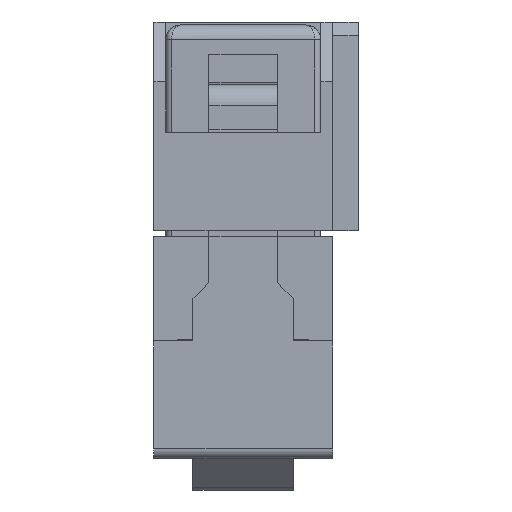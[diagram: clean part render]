
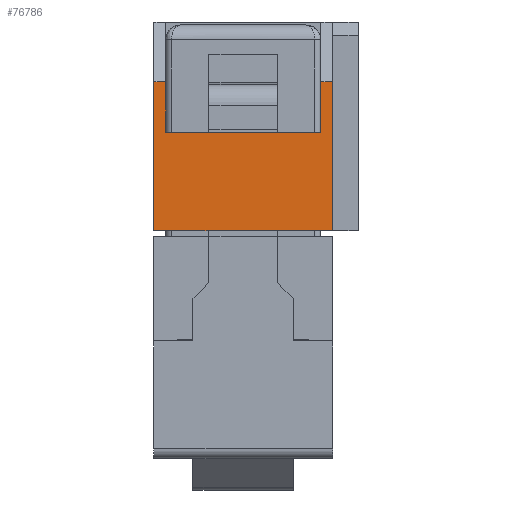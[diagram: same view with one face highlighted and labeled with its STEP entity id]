
A CAD part, left-side view. The second image highlights one B-rep face of the part: STEP entity #76786.
In plain terms, the highlighted planar face has unit normal (-1, 0, 0).
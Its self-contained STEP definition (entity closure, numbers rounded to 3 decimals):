
#71978 = PLANE('',#71979);
#71979 = AXIS2_PLACEMENT_3D('',#71980,#71981,#71982);
#71980 = CARTESIAN_POINT('',(-15.04,-3.,0.));
#71981 = DIRECTION('',(0.,0.,1.));
#71982 = DIRECTION('',(1.,0.,0.));
#73907 = PLANE('',#73908);
#73908 = AXIS2_PLACEMENT_3D('',#73909,#73910,#73911);
#73909 = CARTESIAN_POINT('',(-14.64,-2.6,31.637));
#73910 = DIRECTION('',(0.,1.,0.));
#73911 = DIRECTION('',(0.,0.,1.));
#73980 = PLANE('',#73981);
#73981 = AXIS2_PLACEMENT_3D('',#73982,#73983,#73984);
#73982 = CARTESIAN_POINT('',(-13.24,2.6,31.637));
#73983 = DIRECTION('',(0.,-1.,0.));
#73984 = DIRECTION('',(0.,0.,-1.));
#74463 = VERTEX_POINT('',#74464);
#74464 = CARTESIAN_POINT('',(-15.04,-3.,0.));
#74478 = PLANE('',#74479);
#74479 = AXIS2_PLACEMENT_3D('',#74480,#74481,#74482);
#74480 = CARTESIAN_POINT('',(-15.04,-3.,7.));
#74481 = DIRECTION('',(0.,1.,0.));
#74482 = DIRECTION('',(-1.,0.,0.));
#74490 = EDGE_CURVE('',#74491,#74463,#74493,.T.);
#74491 = VERTEX_POINT('',#74492);
#74492 = CARTESIAN_POINT('',(-15.04,3.,0.));
#74493 = SURFACE_CURVE('',#74494,(#74498,#74505),.PCURVE_S1.);
#74494 = LINE('',#74495,#74496);
#74495 = CARTESIAN_POINT('',(-15.04,3.,0.));
#74496 = VECTOR('',#74497,1.);
#74497 = DIRECTION('',(0.,-1.,0.));
#74498 = PCURVE('',#71978,#74499);
#74499 = DEFINITIONAL_REPRESENTATION('',(#74500),#74504);
#74500 = LINE('',#74501,#74502);
#74501 = CARTESIAN_POINT('',(0.,6.));
#74502 = VECTOR('',#74503,1.);
#74503 = DIRECTION('',(0.,-1.));
#74504 = ( GEOMETRIC_REPRESENTATION_CONTEXT(2) 
PARAMETRIC_REPRESENTATION_CONTEXT() REPRESENTATION_CONTEXT('2D SPACE',''
  ) );
#74505 = PCURVE('',#74506,#74511);
#74506 = PLANE('',#74507);
#74507 = AXIS2_PLACEMENT_3D('',#74508,#74509,#74510);
#74508 = CARTESIAN_POINT('',(-15.04,3.,7.));
#74509 = DIRECTION('',(1.,0.,0.));
#74510 = DIRECTION('',(0.,0.,-1.));
#74511 = DEFINITIONAL_REPRESENTATION('',(#74512),#74516);
#74512 = LINE('',#74513,#74514);
#74513 = CARTESIAN_POINT('',(7.,0.));
#74514 = VECTOR('',#74515,1.);
#74515 = DIRECTION('',(0.,-1.));
#74516 = ( GEOMETRIC_REPRESENTATION_CONTEXT(2) 
PARAMETRIC_REPRESENTATION_CONTEXT() REPRESENTATION_CONTEXT('2D SPACE',''
  ) );
#74534 = PLANE('',#74535);
#74535 = AXIS2_PLACEMENT_3D('',#74536,#74537,#74538);
#74536 = CARTESIAN_POINT('',(15.04,3.,7.));
#74537 = DIRECTION('',(0.,-1.,0.));
#74538 = DIRECTION('',(1.,0.,0.));
#76786 = ADVANCED_FACE('',(#76787),#74506,.F.);
#76787 = FACE_BOUND('',#76788,.T.);
#76788 = EDGE_LOOP('',(#76789,#76819,#76842,#76870,#76893,#76921,#76942,
    #76943));
#76789 = ORIENTED_EDGE('',*,*,#76790,.F.);
#76790 = EDGE_CURVE('',#76791,#76793,#76795,.T.);
#76791 = VERTEX_POINT('',#76792);
#76792 = CARTESIAN_POINT('',(-15.04,-2.6,5.));
#76793 = VERTEX_POINT('',#76794);
#76794 = CARTESIAN_POINT('',(-15.04,-3.,5.));
#76795 = SURFACE_CURVE('',#76796,(#76800,#76807),.PCURVE_S1.);
#76796 = LINE('',#76797,#76798);
#76797 = CARTESIAN_POINT('',(-15.04,3.,5.));
#76798 = VECTOR('',#76799,1.);
#76799 = DIRECTION('',(0.,-1.,0.));
#76800 = PCURVE('',#74506,#76801);
#76801 = DEFINITIONAL_REPRESENTATION('',(#76802),#76806);
#76802 = LINE('',#76803,#76804);
#76803 = CARTESIAN_POINT('',(2.,0.));
#76804 = VECTOR('',#76805,1.);
#76805 = DIRECTION('',(0.,-1.));
#76806 = ( GEOMETRIC_REPRESENTATION_CONTEXT(2) 
PARAMETRIC_REPRESENTATION_CONTEXT() REPRESENTATION_CONTEXT('2D SPACE',''
  ) );
#76807 = PCURVE('',#76808,#76813);
#76808 = PLANE('',#76809);
#76809 = AXIS2_PLACEMENT_3D('',#76810,#76811,#76812);
#76810 = CARTESIAN_POINT('',(-15.04,-31.637,5.));
#76811 = DIRECTION('',(-0.894,0.,0.447));
#76812 = DIRECTION('',(0.447,0.,0.894));
#76813 = DEFINITIONAL_REPRESENTATION('',(#76814),#76818);
#76814 = LINE('',#76815,#76816);
#76815 = CARTESIAN_POINT('',(0.,34.637));
#76816 = VECTOR('',#76817,1.);
#76817 = DIRECTION('',(0.,-1.));
#76818 = ( GEOMETRIC_REPRESENTATION_CONTEXT(2) 
PARAMETRIC_REPRESENTATION_CONTEXT() REPRESENTATION_CONTEXT('2D SPACE',''
  ) );
#76819 = ORIENTED_EDGE('',*,*,#76820,.F.);
#76820 = EDGE_CURVE('',#76821,#76791,#76823,.T.);
#76821 = VERTEX_POINT('',#76822);
#76822 = CARTESIAN_POINT('',(-15.04,-2.6,3.3));
#76823 = SURFACE_CURVE('',#76824,(#76828,#76835),.PCURVE_S1.);
#76824 = LINE('',#76825,#76826);
#76825 = CARTESIAN_POINT('',(-15.04,-2.6,3.3));
#76826 = VECTOR('',#76827,1.);
#76827 = DIRECTION('',(0.,0.,1.));
#76828 = PCURVE('',#74506,#76829);
#76829 = DEFINITIONAL_REPRESENTATION('',(#76830),#76834);
#76830 = LINE('',#76831,#76832);
#76831 = CARTESIAN_POINT('',(3.7,-5.6));
#76832 = VECTOR('',#76833,1.);
#76833 = DIRECTION('',(-1.,0.));
#76834 = ( GEOMETRIC_REPRESENTATION_CONTEXT(2) 
PARAMETRIC_REPRESENTATION_CONTEXT() REPRESENTATION_CONTEXT('2D SPACE',''
  ) );
#76835 = PCURVE('',#73907,#76836);
#76836 = DEFINITIONAL_REPRESENTATION('',(#76837),#76841);
#76837 = LINE('',#76838,#76839);
#76838 = CARTESIAN_POINT('',(-28.337,-0.4));
#76839 = VECTOR('',#76840,1.);
#76840 = DIRECTION('',(1.,0.));
#76841 = ( GEOMETRIC_REPRESENTATION_CONTEXT(2) 
PARAMETRIC_REPRESENTATION_CONTEXT() REPRESENTATION_CONTEXT('2D SPACE',''
  ) );
#76842 = ORIENTED_EDGE('',*,*,#76843,.F.);
#76843 = EDGE_CURVE('',#76844,#76821,#76846,.T.);
#76844 = VERTEX_POINT('',#76845);
#76845 = CARTESIAN_POINT('',(-15.04,2.6,3.3));
#76846 = SURFACE_CURVE('',#76847,(#76851,#76858),.PCURVE_S1.);
#76847 = LINE('',#76848,#76849);
#76848 = CARTESIAN_POINT('',(-15.04,2.6,3.3));
#76849 = VECTOR('',#76850,1.);
#76850 = DIRECTION('',(0.,-1.,0.));
#76851 = PCURVE('',#74506,#76852);
#76852 = DEFINITIONAL_REPRESENTATION('',(#76853),#76857);
#76853 = LINE('',#76854,#76855);
#76854 = CARTESIAN_POINT('',(3.7,-0.4));
#76855 = VECTOR('',#76856,1.);
#76856 = DIRECTION('',(0.,-1.));
#76857 = ( GEOMETRIC_REPRESENTATION_CONTEXT(2) 
PARAMETRIC_REPRESENTATION_CONTEXT() REPRESENTATION_CONTEXT('2D SPACE',''
  ) );
#76858 = PCURVE('',#76859,#76864);
#76859 = PLANE('',#76860);
#76860 = AXIS2_PLACEMENT_3D('',#76861,#76862,#76863);
#76861 = CARTESIAN_POINT('',(16.597,2.6,3.3));
#76862 = DIRECTION('',(0.,0.,-1.));
#76863 = DIRECTION('',(-1.,0.,0.));
#76864 = DEFINITIONAL_REPRESENTATION('',(#76865),#76869);
#76865 = LINE('',#76866,#76867);
#76866 = CARTESIAN_POINT('',(31.637,0.));
#76867 = VECTOR('',#76868,1.);
#76868 = DIRECTION('',(0.,-1.));
#76869 = ( GEOMETRIC_REPRESENTATION_CONTEXT(2) 
PARAMETRIC_REPRESENTATION_CONTEXT() REPRESENTATION_CONTEXT('2D SPACE',''
  ) );
#76870 = ORIENTED_EDGE('',*,*,#76871,.F.);
#76871 = EDGE_CURVE('',#76872,#76844,#76874,.T.);
#76872 = VERTEX_POINT('',#76873);
#76873 = CARTESIAN_POINT('',(-15.04,2.6,5.));
#76874 = SURFACE_CURVE('',#76875,(#76879,#76886),.PCURVE_S1.);
#76875 = LINE('',#76876,#76877);
#76876 = CARTESIAN_POINT('',(-15.04,2.6,5.8));
#76877 = VECTOR('',#76878,1.);
#76878 = DIRECTION('',(0.,0.,-1.));
#76879 = PCURVE('',#74506,#76880);
#76880 = DEFINITIONAL_REPRESENTATION('',(#76881),#76885);
#76881 = LINE('',#76882,#76883);
#76882 = CARTESIAN_POINT('',(1.2,-0.4));
#76883 = VECTOR('',#76884,1.);
#76884 = DIRECTION('',(1.,0.));
#76885 = ( GEOMETRIC_REPRESENTATION_CONTEXT(2) 
PARAMETRIC_REPRESENTATION_CONTEXT() REPRESENTATION_CONTEXT('2D SPACE',''
  ) );
#76886 = PCURVE('',#73980,#76887);
#76887 = DEFINITIONAL_REPRESENTATION('',(#76888),#76892);
#76888 = LINE('',#76889,#76890);
#76889 = CARTESIAN_POINT('',(25.837,-1.8));
#76890 = VECTOR('',#76891,1.);
#76891 = DIRECTION('',(1.,0.));
#76892 = ( GEOMETRIC_REPRESENTATION_CONTEXT(2) 
PARAMETRIC_REPRESENTATION_CONTEXT() REPRESENTATION_CONTEXT('2D SPACE',''
  ) );
#76893 = ORIENTED_EDGE('',*,*,#76894,.F.);
#76894 = EDGE_CURVE('',#76895,#76872,#76897,.T.);
#76895 = VERTEX_POINT('',#76896);
#76896 = CARTESIAN_POINT('',(-15.04,3.,5.));
#76897 = SURFACE_CURVE('',#76898,(#76902,#76909),.PCURVE_S1.);
#76898 = LINE('',#76899,#76900);
#76899 = CARTESIAN_POINT('',(-15.04,3.,5.));
#76900 = VECTOR('',#76901,1.);
#76901 = DIRECTION('',(0.,-1.,0.));
#76902 = PCURVE('',#74506,#76903);
#76903 = DEFINITIONAL_REPRESENTATION('',(#76904),#76908);
#76904 = LINE('',#76905,#76906);
#76905 = CARTESIAN_POINT('',(2.,0.));
#76906 = VECTOR('',#76907,1.);
#76907 = DIRECTION('',(0.,-1.));
#76908 = ( GEOMETRIC_REPRESENTATION_CONTEXT(2) 
PARAMETRIC_REPRESENTATION_CONTEXT() REPRESENTATION_CONTEXT('2D SPACE',''
  ) );
#76909 = PCURVE('',#76910,#76915);
#76910 = PLANE('',#76911);
#76911 = AXIS2_PLACEMENT_3D('',#76912,#76913,#76914);
#76912 = CARTESIAN_POINT('',(-15.04,-31.637,5.));
#76913 = DIRECTION('',(-0.894,0.,0.447));
#76914 = DIRECTION('',(0.447,0.,0.894));
#76915 = DEFINITIONAL_REPRESENTATION('',(#76916),#76920);
#76916 = LINE('',#76917,#76918);
#76917 = CARTESIAN_POINT('',(0.,34.637));
#76918 = VECTOR('',#76919,1.);
#76919 = DIRECTION('',(0.,-1.));
#76920 = ( GEOMETRIC_REPRESENTATION_CONTEXT(2) 
PARAMETRIC_REPRESENTATION_CONTEXT() REPRESENTATION_CONTEXT('2D SPACE',''
  ) );
#76921 = ORIENTED_EDGE('',*,*,#76922,.T.);
#76922 = EDGE_CURVE('',#76895,#74491,#76923,.T.);
#76923 = SURFACE_CURVE('',#76924,(#76928,#76935),.PCURVE_S1.);
#76924 = LINE('',#76925,#76926);
#76925 = CARTESIAN_POINT('',(-15.04,3.,7.));
#76926 = VECTOR('',#76927,1.);
#76927 = DIRECTION('',(0.,0.,-1.));
#76928 = PCURVE('',#74506,#76929);
#76929 = DEFINITIONAL_REPRESENTATION('',(#76930),#76934);
#76930 = LINE('',#76931,#76932);
#76931 = CARTESIAN_POINT('',(0.,0.));
#76932 = VECTOR('',#76933,1.);
#76933 = DIRECTION('',(1.,0.));
#76934 = ( GEOMETRIC_REPRESENTATION_CONTEXT(2) 
PARAMETRIC_REPRESENTATION_CONTEXT() REPRESENTATION_CONTEXT('2D SPACE',''
  ) );
#76935 = PCURVE('',#74534,#76936);
#76936 = DEFINITIONAL_REPRESENTATION('',(#76937),#76941);
#76937 = LINE('',#76938,#76939);
#76938 = CARTESIAN_POINT('',(-30.08,0.));
#76939 = VECTOR('',#76940,1.);
#76940 = DIRECTION('',(0.,-1.));
#76941 = ( GEOMETRIC_REPRESENTATION_CONTEXT(2) 
PARAMETRIC_REPRESENTATION_CONTEXT() REPRESENTATION_CONTEXT('2D SPACE',''
  ) );
#76942 = ORIENTED_EDGE('',*,*,#74490,.T.);
#76943 = ORIENTED_EDGE('',*,*,#76944,.F.);
#76944 = EDGE_CURVE('',#76793,#74463,#76945,.T.);
#76945 = SURFACE_CURVE('',#76946,(#76950,#76957),.PCURVE_S1.);
#76946 = LINE('',#76947,#76948);
#76947 = CARTESIAN_POINT('',(-15.04,-3.,7.));
#76948 = VECTOR('',#76949,1.);
#76949 = DIRECTION('',(0.,0.,-1.));
#76950 = PCURVE('',#74506,#76951);
#76951 = DEFINITIONAL_REPRESENTATION('',(#76952),#76956);
#76952 = LINE('',#76953,#76954);
#76953 = CARTESIAN_POINT('',(0.,-6.));
#76954 = VECTOR('',#76955,1.);
#76955 = DIRECTION('',(1.,0.));
#76956 = ( GEOMETRIC_REPRESENTATION_CONTEXT(2) 
PARAMETRIC_REPRESENTATION_CONTEXT() REPRESENTATION_CONTEXT('2D SPACE',''
  ) );
#76957 = PCURVE('',#74478,#76958);
#76958 = DEFINITIONAL_REPRESENTATION('',(#76959),#76963);
#76959 = LINE('',#76960,#76961);
#76960 = CARTESIAN_POINT('',(0.,0.));
#76961 = VECTOR('',#76962,1.);
#76962 = DIRECTION('',(-0.,-1.));
#76963 = ( GEOMETRIC_REPRESENTATION_CONTEXT(2) 
PARAMETRIC_REPRESENTATION_CONTEXT() REPRESENTATION_CONTEXT('2D SPACE',''
  ) );
